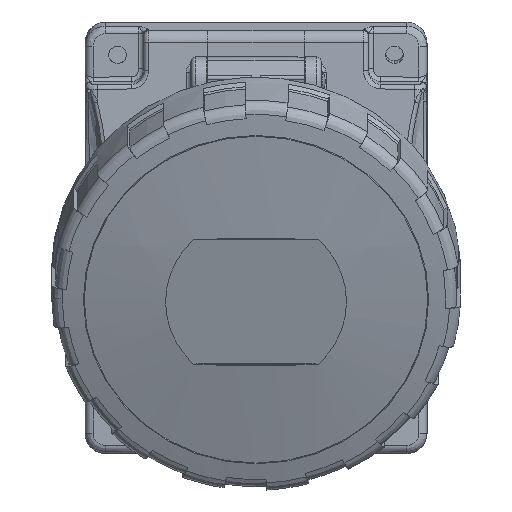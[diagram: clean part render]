
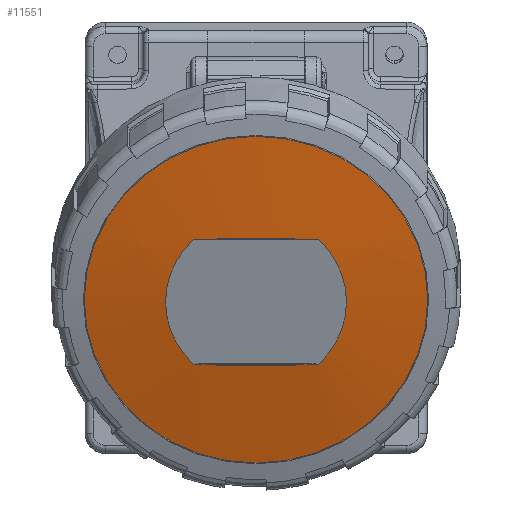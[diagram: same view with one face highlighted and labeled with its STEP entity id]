
A CAD part, front view. The second image highlights one B-rep face of the part: STEP entity #11551.
In plain terms, the highlighted spherical face has radius 380 mm.
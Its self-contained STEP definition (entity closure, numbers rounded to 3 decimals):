
#1046=FACE_BOUND('',#14251,.T.);
#1047=FACE_BOUND('',#14252,.T.);
#1540=SPHERICAL_SURFACE('',#34878,380.);
#11551=ADVANCED_FACE('',(#1046,#1047),#1540,.T.);
#14251=EDGE_LOOP('',(#20219));
#14252=EDGE_LOOP('',(#20220,#20221,#20222,#20223));
#20219=ORIENTED_EDGE('',*,*,#29909,.F.);
#20220=ORIENTED_EDGE('',*,*,#29913,.T.);
#20221=ORIENTED_EDGE('',*,*,#29916,.T.);
#20222=ORIENTED_EDGE('',*,*,#29917,.T.);
#20223=ORIENTED_EDGE('',*,*,#29918,.T.);
#25355=VERTEX_POINT('',#63916);
#25357=VERTEX_POINT('',#63962);
#25359=VERTEX_POINT('',#63996);
#25362=VERTEX_POINT('',#64005);
#25363=VERTEX_POINT('',#64007);
#29909=EDGE_CURVE('',#25355,#25355,#32760,.T.);
#29913=EDGE_CURVE('',#25357,#25359,#32762,.T.);
#29916=EDGE_CURVE('',#25359,#25362,#32764,.T.);
#29917=EDGE_CURVE('',#25362,#25363,#32765,.T.);
#29918=EDGE_CURVE('',#25363,#25357,#32766,.T.);
#32760=CIRCLE('',#34868,42.2);
#32762=CIRCLE('',#34871,301.368);
#32764=CIRCLE('',#34875,22.217);
#32765=CIRCLE('',#34876,301.368);
#32766=CIRCLE('',#34877,22.217);
#34868=AXIS2_PLACEMENT_3D('',#63915,#40013,#40014);
#34871=AXIS2_PLACEMENT_3D('',#63997,#40019,#40020);
#34875=AXIS2_PLACEMENT_3D('',#64004,#40028,#40029);
#34876=AXIS2_PLACEMENT_3D('',#64006,#40030,#40031);
#34877=AXIS2_PLACEMENT_3D('',#64008,#40032,#40033);
#34878=AXIS2_PLACEMENT_3D('',#64009,#40034,#40035);
#40013=DIRECTION('',(0.,0.951,0.309));
#40014=DIRECTION('',(1.,0.,0.));
#40019=DIRECTION('',(0.,0.848,-0.53));
#40020=DIRECTION('',(0.,-0.53,-0.848));
#40028=DIRECTION('',(0.,0.951,0.309));
#40029=DIRECTION('',(-1.,0.,0.));
#40030=DIRECTION('',(0.,0.375,0.927));
#40031=DIRECTION('',(0.,0.927,-0.375));
#40032=DIRECTION('',(0.,0.951,0.309));
#40033=DIRECTION('',(-1.,0.,0.));
#40034=DIRECTION('',(0.,0.309,-0.951));
#40035=DIRECTION('',(1.,0.,0.));
#63915=CARTESIAN_POINT('',(-0.005,-141.256,-25.804));
#63916=CARTESIAN_POINT('',(42.195,-141.256,-25.804));
#63962=CARTESIAN_POINT('',(15.248,-137.881,-41.692));
#63996=CARTESIAN_POINT('',(-15.258,-137.881,-41.692));
#63997=CARTESIAN_POINT('',(-0.005,21.615,213.555));
#64004=CARTESIAN_POINT('',(-0.005,-142.873,-26.33));
#64005=CARTESIAN_POINT('',(-15.258,-147.864,-10.967));
#64006=CARTESIAN_POINT('',(-0.005,131.201,-123.717));
#64007=CARTESIAN_POINT('',(15.248,-147.864,-10.967));
#64008=CARTESIAN_POINT('',(-0.005,-142.873,-26.33));
#64009=CARTESIAN_POINT('',(-0.005,217.911,90.896));
